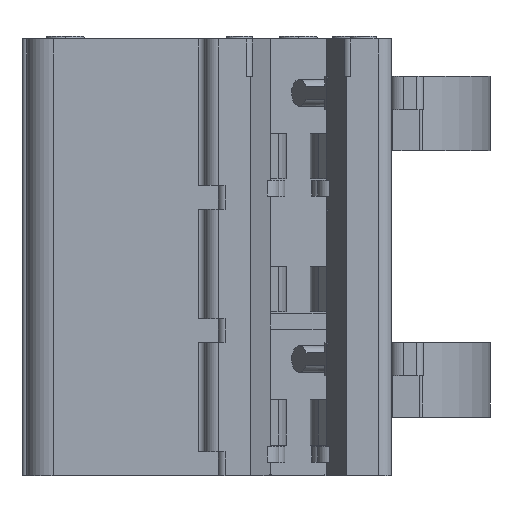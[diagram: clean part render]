
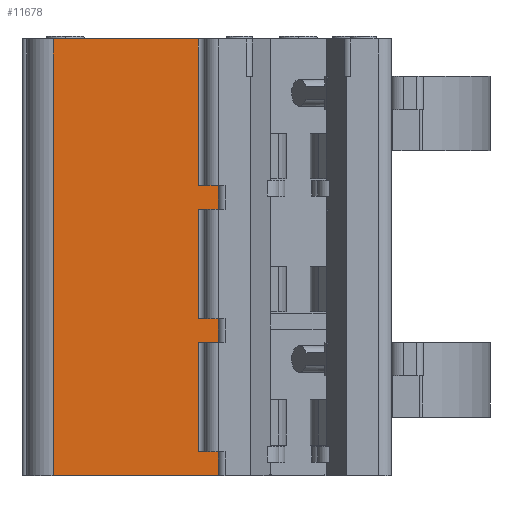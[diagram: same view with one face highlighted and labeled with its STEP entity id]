
A CAD part, left-side view. The second image highlights one B-rep face of the part: STEP entity #11678.
In plain terms, the highlighted planar face has unit normal (-1, 0, 0).
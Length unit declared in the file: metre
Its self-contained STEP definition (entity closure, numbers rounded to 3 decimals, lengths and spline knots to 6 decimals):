
#1041=DIRECTION('',(0.,0.,-1.));
#1042=VECTOR('',#1041,0.0164);
#1043=CARTESIAN_POINT('',(0.01165,0.0127,0.));
#1044=LINE('',#1043,#1042);
#1049=DIRECTION('',(0.,1.,0.));
#1050=VECTOR('',#1049,0.00075);
#1051=CARTESIAN_POINT('',(0.01165,0.0065,-0.0114));
#1052=LINE('',#1051,#1050);
#1053=DIRECTION('',(0.,-1.,0.));
#1054=VECTOR('',#1053,0.00075);
#1055=CARTESIAN_POINT('',(0.01165,0.00725,-0.0155));
#1056=LINE('',#1055,#1054);
#1057=DIRECTION('',(0.,1.,0.));
#1058=VECTOR('',#1057,0.0062);
#1059=CARTESIAN_POINT('',(0.01165,0.0065,-0.0164));
#1060=LINE('',#1059,#1058);
#1061=DIRECTION('',(0.,-1.,0.));
#1062=VECTOR('',#1061,0.00545);
#1063=CARTESIAN_POINT('',(0.01165,0.0127,0.));
#1064=LINE('',#1063,#1062);
#1065=DIRECTION('',(0.,-1.,0.));
#1066=VECTOR('',#1065,0.00075);
#1067=CARTESIAN_POINT('',(0.01165,0.00725,-0.0055));
#1068=LINE('',#1067,#1066);
#1069=DIRECTION('',(0.,1.,0.));
#1070=VECTOR('',#1069,0.00075);
#1071=CARTESIAN_POINT('',(0.01165,0.0065,-0.0064));
#1072=LINE('',#1071,#1070);
#1073=DIRECTION('',(0.,-1.,0.));
#1074=VECTOR('',#1073,0.00075);
#1075=CARTESIAN_POINT('',(0.01165,0.00725,-0.0105));
#1076=LINE('',#1075,#1074);
#1098=DIRECTION('',(0.,0.,1.));
#1099=VECTOR('',#1098,0.0009);
#1100=CARTESIAN_POINT('',(0.01165,0.0065,-0.0114));
#1101=LINE('',#1100,#1099);
#1110=DIRECTION('',(0.,0.,1.));
#1111=VECTOR('',#1110,0.0009);
#1112=CARTESIAN_POINT('',(0.01165,0.0065,-0.0064));
#1113=LINE('',#1112,#1111);
#1845=DIRECTION('',(0.,0.,1.));
#1846=VECTOR('',#1845,0.0009);
#1847=CARTESIAN_POINT('',(0.01165,0.0065,-0.0164));
#1848=LINE('',#1847,#1846);
#2240=DIRECTION('',(0.,0.,1.));
#2241=VECTOR('',#2240,0.0041);
#2242=CARTESIAN_POINT('',(0.01165,0.00725,-0.0105));
#2243=LINE('',#2242,#2241);
#2275=DIRECTION('',(0.,0.,1.));
#2276=VECTOR('',#2275,0.0055);
#2277=CARTESIAN_POINT('',(0.01165,0.00725,-0.0055));
#2278=LINE('',#2277,#2276);
#2283=DIRECTION('',(0.,0.,1.));
#2284=VECTOR('',#2283,0.0041);
#2285=CARTESIAN_POINT('',(0.01165,0.00725,-0.0155));
#2286=LINE('',#2285,#2284);
#7672=CARTESIAN_POINT('',(0.01165,0.00725,0.));
#7673=VERTEX_POINT('',#7672);
#7674=CARTESIAN_POINT('',(0.01165,0.0127,0.));
#7675=VERTEX_POINT('',#7674);
#7800=CARTESIAN_POINT('',(0.01165,0.0065,-0.0114));
#7801=CARTESIAN_POINT('',(0.01165,0.00725,-0.0114));
#7802=VERTEX_POINT('',#7800);
#7803=VERTEX_POINT('',#7801);
#7826=CARTESIAN_POINT('',(0.01165,0.00725,-0.0155));
#7827=VERTEX_POINT('',#7826);
#7828=CARTESIAN_POINT('',(0.01165,0.0065,-0.0155));
#7829=VERTEX_POINT('',#7828);
#7830=CARTESIAN_POINT('',(0.01165,0.0065,-0.0164));
#7831=VERTEX_POINT('',#7830);
#7832=CARTESIAN_POINT('',(0.01165,0.0127,-0.0164));
#7833=VERTEX_POINT('',#7832);
#7834=CARTESIAN_POINT('',(0.01165,0.00725,-0.0055));
#7835=VERTEX_POINT('',#7834);
#7836=CARTESIAN_POINT('',(0.01165,0.0065,-0.0055));
#7837=VERTEX_POINT('',#7836);
#7838=CARTESIAN_POINT('',(0.01165,0.0065,-0.0064));
#7839=VERTEX_POINT('',#7838);
#7840=CARTESIAN_POINT('',(0.01165,0.00725,-0.0064));
#7841=VERTEX_POINT('',#7840);
#7842=CARTESIAN_POINT('',(0.01165,0.00725,-0.0105));
#7843=VERTEX_POINT('',#7842);
#7844=CARTESIAN_POINT('',(0.01165,0.0065,-0.0105));
#7845=VERTEX_POINT('',#7844);
#11645=CARTESIAN_POINT('',(0.01165,0.0127,0.));
#11646=DIRECTION('',(-1.,0.,0.));
#11647=DIRECTION('',(0.,-1.,0.));
#11648=AXIS2_PLACEMENT_3D('',#11645,#11646,#11647);
#11649=PLANE('',#11648);
#11651=ORIENTED_EDGE('',*,*,#11650,.T.);
#11653=ORIENTED_EDGE('',*,*,#11652,.F.);
#11655=ORIENTED_EDGE('',*,*,#11654,.T.);
#11657=ORIENTED_EDGE('',*,*,#11656,.F.);
#11659=ORIENTED_EDGE('',*,*,#11658,.T.);
#11660=ORIENTED_EDGE('',*,*,#11636,.F.);
#11661=ORIENTED_EDGE('',*,*,#10481,.T.);
#11663=ORIENTED_EDGE('',*,*,#11662,.F.);
#11665=ORIENTED_EDGE('',*,*,#11664,.T.);
#11667=ORIENTED_EDGE('',*,*,#11666,.F.);
#11669=ORIENTED_EDGE('',*,*,#11668,.T.);
#11671=ORIENTED_EDGE('',*,*,#11670,.F.);
#11673=ORIENTED_EDGE('',*,*,#11672,.T.);
#11675=ORIENTED_EDGE('',*,*,#11674,.F.);
#11676=EDGE_LOOP('',(#11651,#11653,#11655,#11657,#11659,#11660,#11661,#11663,
#11665,#11667,#11669,#11671,#11673,#11675));
#11677=FACE_OUTER_BOUND('',#11676,.F.);
#11678=ADVANCED_FACE('',(#11677),#11649,.T.);
#10481=EDGE_CURVE('',#7675,#7673,#1064,.T.);
#11636=EDGE_CURVE('',#7675,#7833,#1044,.T.);
#11650=EDGE_CURVE('',#7802,#7803,#1052,.T.);
#11652=EDGE_CURVE('',#7827,#7803,#2286,.T.);
#11654=EDGE_CURVE('',#7827,#7829,#1056,.T.);
#11656=EDGE_CURVE('',#7831,#7829,#1848,.T.);
#11658=EDGE_CURVE('',#7831,#7833,#1060,.T.);
#11662=EDGE_CURVE('',#7835,#7673,#2278,.T.);
#11664=EDGE_CURVE('',#7835,#7837,#1068,.T.);
#11666=EDGE_CURVE('',#7839,#7837,#1113,.T.);
#11668=EDGE_CURVE('',#7839,#7841,#1072,.T.);
#11670=EDGE_CURVE('',#7843,#7841,#2243,.T.);
#11672=EDGE_CURVE('',#7843,#7845,#1076,.T.);
#11674=EDGE_CURVE('',#7802,#7845,#1101,.T.);
